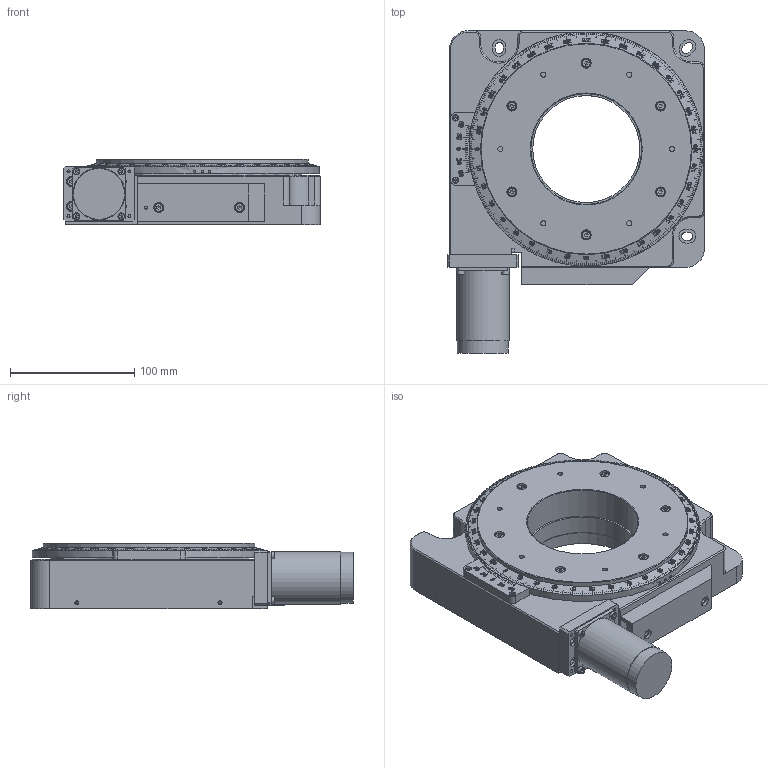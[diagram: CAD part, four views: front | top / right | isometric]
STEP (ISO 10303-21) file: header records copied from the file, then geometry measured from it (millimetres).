
FILE_DESCRIPTION(/* description */ (''),/* implementation_level */ '2;1');
FILE_NAME(/* name */ 'U:\KONSTRUKTORIAI\DOKUMENTACIJA\8\8MR190-90\8MR190V-90\STEP\8MR190V-90-VSS43 SB.stp',/* time_stamp */ '2019-08-26T09:00:25+03:00',/* author */ ('dsgn32'),/* organization */ (''),/* preprocessor_version */ 'ST-DEVELOPER v15.2',/* originating_system */ 'Autodesk Inventor 2014',/* authorisation */ '');
FILE_SCHEMA (('AUTOMOTIVE_DESIGN { 1 0 10303 214 3 1 1 }'));
Products named in the file (1): 8MR190V-90-VSS43 SB
Bounding box: 206.5 x 259 x 53 mm (x, y, z)
Volume: 1595891.4 mm3; surface area: 186791.5 mm2
Topology: 1 solids, 49 shells, 4701 faces, 12045 edges, 7903 vertices
Faces by surface type: plane 2453, bspline 1319, cone 605, cylinder 266, torus 58
Full cylindrical faces by diameter (mm): 1.4 x2, 1.567 x7, 2.013 x5, 2.256 x1, 2.4 x2, 2.459 x9, 2.5 x4, 3 x10, 3.2 x4, 3.242 x16, 3.5 x1, 4 x22, 4.134 x6, 4.3 x2, 4.5 x26, 4.917 x2, 5 x9, 5.5 x4, 5.6 x1, 6.3 x2, 7 x22, 7.5 x2, 8 x25, 9 x2, 14 x1, 20 x1, 22 x2, 22.5 x1, 24 x2, 41 x1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
Entity records: 466110 total; most frequent: CARTESIAN_POINT 364220, ORIENTED_EDGE 23060, DIRECTION 14014, EDGE_CURVE 11528, VERTEX_POINT 7729, EDGE_LOOP 5613, LINE 5308, VECTOR 5308
